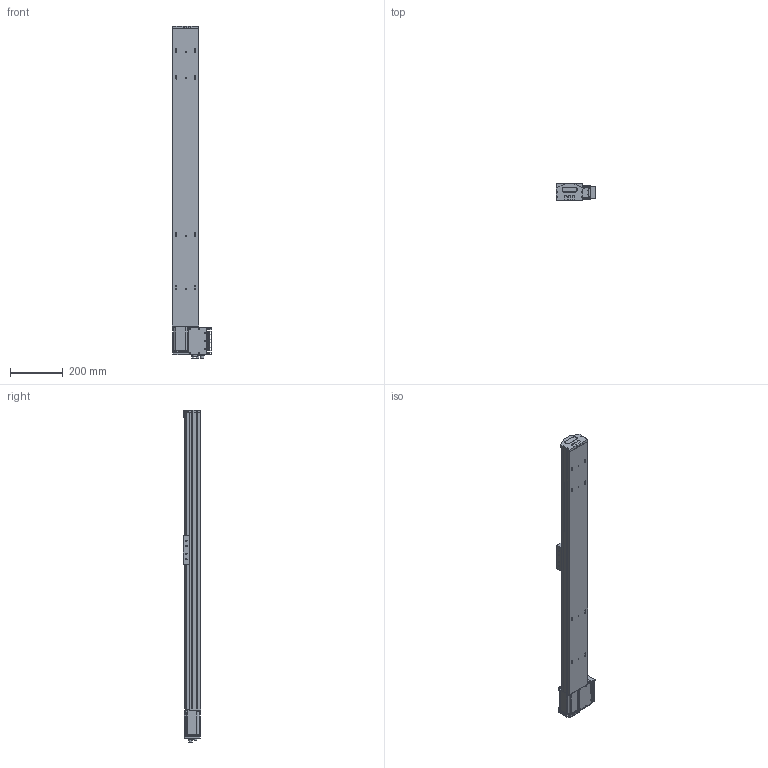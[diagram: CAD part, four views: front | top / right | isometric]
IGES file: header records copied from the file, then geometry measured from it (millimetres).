
Start section: SolidWorks IGES file using analytic representation for surfaces
Global section: file name: C:\Documents and Settings\1EDPI\Mes documents\yanize\S 10 TSH MD\S 10 TSH MD S900.IGS; native system: SolidWorks 2010; preprocessor: SolidWorks 2010; author: 1EDPI; date: 120829.152957; units: millimetre
Bounding box: 148.26 x 66.75 x 1261.6 mm (x, y, z)
Surface area: 773939.9 mm2 (no closed solid volume)
Topology: 0 solids, 0 shells, 1724 faces, 23552 edges, 23524 vertices
Faces by surface type: revolution 922, bspline 802
